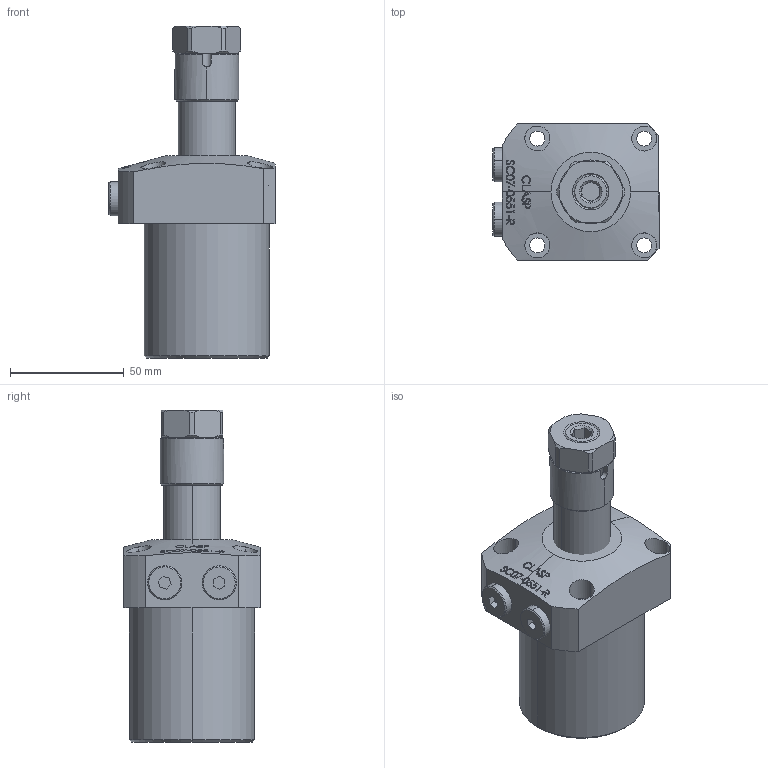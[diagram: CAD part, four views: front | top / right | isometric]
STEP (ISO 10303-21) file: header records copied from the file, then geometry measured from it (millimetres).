
FILE_DESCRIPTION (( 'STEP AP203' ), '1' );
FILE_NAME ('SC07-0551-R.STEP', '2022-07-05T17:51:56', ( '' ), ( '' ), 'SwSTEP 2.0', 'SolidWorks 2017', '' );
FILE_SCHEMA (( 'CONFIG_CONTROL_DESIGN' ));
Length unit declared in the file: millimetre
Products named in the file (6): SC-07-0551-R-04 sleeve; SC-07-0551-R-03-nut; SC07-0551-R; SC-07-0551-R BODY; SC-07-0551-R-Piston; SC-07-0551-R-05 plug
Assembly tree (6 placements, depth 2):
  SC07-0551-R
    SC-07-0551-R BODY
    SC-07-0551-R-Piston
    SC-07-0551-R-05 plug  x2
    SC-07-0551-R-04 sleeve
    SC-07-0551-R-03-nut
Bounding box: 73 x 60 x 146 mm (x, y, z)
Volume: 289202.7 mm3; surface area: 43453.8 mm2
Topology: 6 solids, 6 shells, 367 faces, 923 edges, 605 vertices
Faces by surface type: plane 161, bspline 93, cylinder 62, cone 49, sphere 2
Entity records: 16735 total; most frequent: CARTESIAN_POINT 8346, ORIENTED_EDGE 1782, DIRECTION 1255, EDGE_CURVE 891, VERTEX_POINT 585, AXIS2_PLACEMENT_3D 426, VECTOR 403, LINE 403
